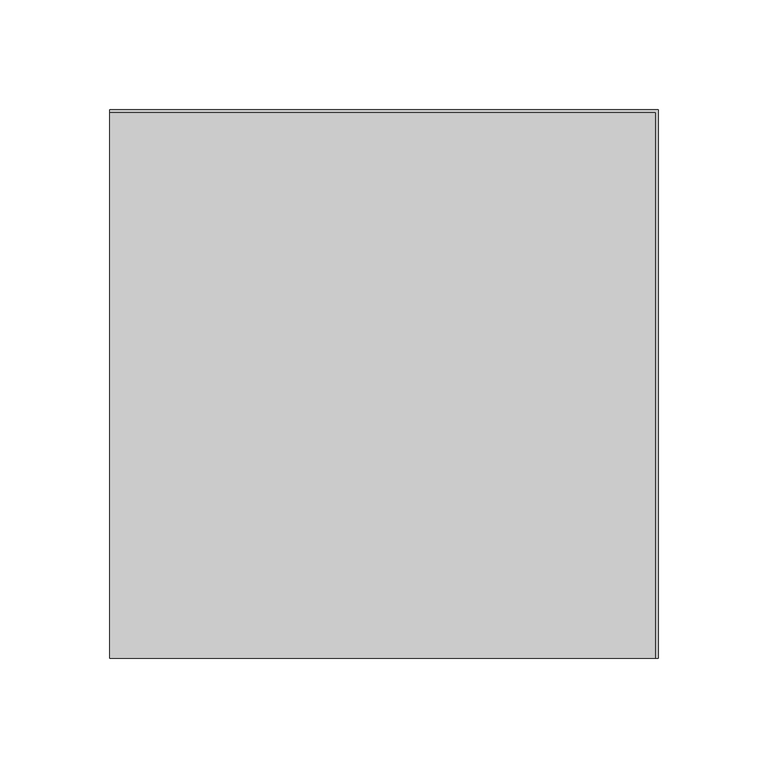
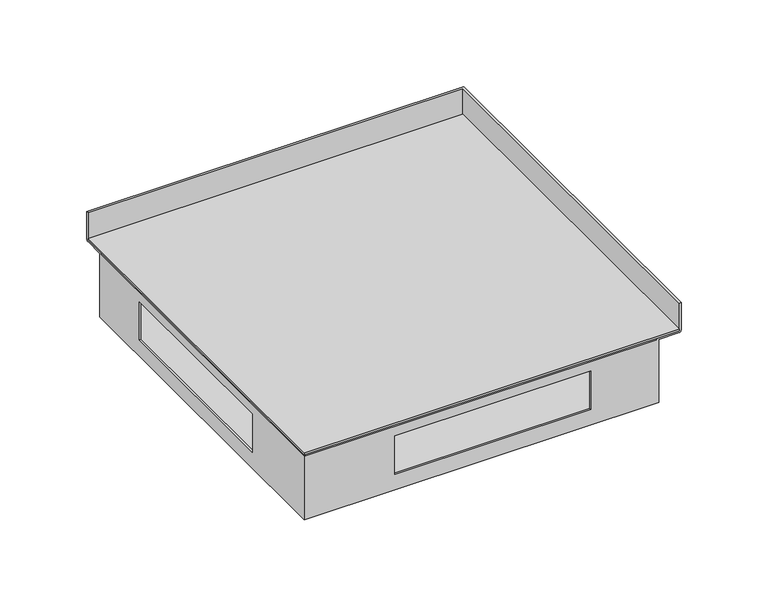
"""IFC4 building model written with IfcOpenShell, lengths in millimetres: proxy geometry, TECHNO_Угловой элемент_KVU : 250_065_90°."""

from ifc_helpers import new_model, si_unit, frame, origin, place, context, project, spatial, polyline, circle_curve, ellipse_curve, outline, extrude, source, transform, mapped, element, save
from ifc_brep_helpers import plane_surface, cylinder_surface, advanced_brep


def mechanical_equipment_7f4ab304(model_context):
    return source(origin(), model_context, "Body", "SolidModel", [
        extrude(outline(polyline([(0.0, 123.8), (248.8, 123.8), (248.8, -125.0), (0.0, -125.0), (0.0, 123.8)])), frame((0.0, 0.0, -19.3), z_axis=(0.0, 0.0, 1.0), x_axis=(1.0, 0.0, 0.0)), (0.0, 0.0, 1.0), 1.2),
        advanced_brep(
        [(1.2, 109.0, -63.8), (1.2, -123.8, -63.8), (234.0, -123.8, -63.8), (234.0, 109.0, -63.8), (0.0, 110.2, -65.0), (235.2, 110.2, -65.0), (235.2, -125.0, -65.0), (0.0, -125.0, -65.0), (0.0, 110.2, -20.5), (0.0, -125.0, -20.5), (0.0, 109.0, -20.5), (0.0, 110.2, -19.3), (0.0, 123.8, -19.3), (0.0, 123.8, 0.0), (0.0, 125.0, 0.0), (0.0, 125.0, -19.3), (0.0, 123.8, -20.5), (0.0, -65.0, -27.0), (0.0, -65.0, -54.0), (0.0, 65.0, -54.0), (0.0, 65.0, -27.0), (235.2, -125.0, -20.5), (248.8, -125.0, -20.5), (250.0, -125.0, -19.3), (250.0, -125.0, 0.0), (248.8, -125.0, 0.0), (248.8, -125.0, -19.3), (235.2, -125.0, -19.3), (234.0, -125.0, -20.5), (60.0, -125.0, -54.0), (60.0, -125.0, -27.0), (190.0, -125.0, -27.0), (190.0, -125.0, -54.0), (235.2, 110.2, -20.5), (1.2, 110.2, -19.3), (1.2, -123.8, -19.3), (235.2, -123.8, -19.3), (248.8, 123.8, -19.3), (235.2, -109.0, -19.3), (16.0, -109.0, -19.3), (16.0, 110.2, -19.3), (235.2, 110.2, -19.3), (16.0, -109.0, -20.5), (16.0, 109.0, -20.5), (234.0, -109.0, -20.5), (234.0, -123.8, -20.5), (1.2, -123.8, -20.5), (1.2, 109.0, -20.5), (1.2, -65.0, -54.0), (1.2, -65.0, -27.0), (1.2, 65.0, -27.0), (1.2, 65.0, -54.0), (60.0, -123.8, -27.0), (60.0, -123.8, -54.0), (190.0, -123.8, -54.0), (190.0, -123.8, -27.0), (250.0, 125.0, -19.3), (250.0, 125.0, 0.0), (248.8, 123.8, 0.0), (248.8, 123.8, -20.5), (234.0, 109.0, -20.5)],
        [
            (0, 1),
            (1, 2),
            (2, 3),
            (3, 0),
            (4, 5),
            (5, 6),
            (6, 7),
            (7, 4),
            (8, 4),
            (7, 9),
            (9, 10),
            (10, 11, circle_curve(frame((0.0, 110.2, -20.5), z_axis=(-1.0, 0.0, 0.0), x_axis=(0.0, -1.0, 0.0)), 1.2)),
            (11, 12),
            (12, 13),
            (13, 14),
            (14, 15),
            (15, 16, circle_curve(frame((0.0, 123.8, -19.3), z_axis=(-1.0, 0.0, 0.0), x_axis=(0.0, -1.0, 0.0)), 1.2)),
            (16, 8),
            (17, 18),
            (18, 19),
            (19, 20),
            (20, 17),
            (6, 21),
            (21, 22),
            (22, 23, circle_curve(frame((248.8, -125.0, -19.3), z_axis=(0.0, -1.0, 0.0), x_axis=(-1.0, 0.0, 0.0)), 1.2)),
            (23, 24),
            (24, 25),
            (25, 26),
            (26, 27),
            (27, 28, circle_curve(frame((235.2, -125.0, -20.5), z_axis=(0.0, -1.0, 0.0), x_axis=(-1.0, 0.0, 0.0)), 1.2)),
            (28, 9),
            (29, 30),
            (30, 31),
            (31, 32),
            (32, 29),
            (8, 33),
            (33, 5),
            (33, 21),
            (34, 35),
            (35, 36),
            (36, 27),
            (26, 37),
            (37, 12),
            (11, 34),
            (38, 39),
            (39, 40),
            (40, 41),
            (41, 38),
            (39, 42),
            (42, 43),
            (43, 40, circle_curve(frame((16.0, 110.2, -20.5), z_axis=(-1.0, 0.0, 0.0), x_axis=(0.0, -1.0, 0.0)), 1.2)),
            (38, 44, circle_curve(frame((235.2, -109.0, -20.5), z_axis=(0.0, -1.0, 0.0), x_axis=(-1.0, 0.0, 0.0)), 1.2)),
            (44, 42),
            (44, 45),
            (45, 46),
            (46, 47),
            (47, 43),
            (46, 1),
            (0, 47),
            (48, 49),
            (49, 50),
            (50, 51),
            (51, 48),
            (45, 2),
            (52, 53),
            (53, 54),
            (54, 55),
            (55, 52),
            (34, 10, ellipse_curve(frame((1.2, 110.2, -20.5), z_axis=(0.7071067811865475, -0.7071067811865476, 0.0), x_axis=(0.7071067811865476, 0.7071067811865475, 0.0)), 1.6970563, 1.2)),
            (9, 35, ellipse_curve(frame((1.2, -123.8, -20.5), z_axis=(-0.7071067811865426, 0.7071067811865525, 0.0), x_axis=(0.7071067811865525, 0.7071067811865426, 0.0)), 1.6970563, 1.2)),
            (28, 36, ellipse_curve(frame((235.2, -123.8, -20.5), z_axis=(-0.707106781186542, 0.7071067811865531, 0.0), x_axis=(-0.7071067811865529, -0.707106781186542, 0.0)), 1.6970563, 1.2)),
            (23, 56),
            (56, 57),
            (57, 24),
            (57, 14),
            (13, 58),
            (58, 25),
            (58, 37),
            (16, 59),
            (59, 22),
            (59, 56, ellipse_curve(frame((248.8, 123.8, -19.3), z_axis=(0.7071067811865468, -0.7071067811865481, 0.0), x_axis=(-0.7071067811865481, -0.7071067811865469, 0.0)), 1.6970563, 1.2)),
            (56, 15),
            (41, 60, ellipse_curve(frame((235.2, 110.2, -20.5), z_axis=(0.7071067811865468, -0.7071067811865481, 0.0), x_axis=(-0.7071067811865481, -0.7071067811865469, 0.0)), 1.6970563, 1.2)),
            (60, 44),
            (60, 3),
            (43, 60),
            (48, 18),
            (17, 49),
            (51, 19),
            (50, 20),
            (52, 30),
            (29, 53),
            (55, 31),
            (54, 32),
        ],
        [
            plane_surface(frame((0.0, 109.0, -63.8), z_axis=(0.0, 0.0, 1.0), x_axis=(0.0, -1.0, 0.0))),
            plane_surface(frame((0.0, 109.0, -65.0), z_axis=(0.0, 0.0, -1.0), x_axis=(0.0, 1.0, 0.0))),
            plane_surface(frame((0.0, 109.0, -63.8), z_axis=(-1.0, 0.0, 0.0), x_axis=(0.0, 0.0, -1.0))),
            plane_surface(frame((0.0, -125.0, -63.8), z_axis=(0.0, -1.0, 0.0), x_axis=(0.0, 0.0, -1.0))),
            plane_surface(frame((0.0, 110.2, -65.0), z_axis=(0.0, 1.0, 0.0), x_axis=(0.0, 0.0, -1.0))),
            plane_surface(frame((235.2, -125.0, -65.0), z_axis=(1.0, 0.0, 0.0), x_axis=(0.0, 0.0, -1.0))),
            plane_surface(frame((1.2, 110.2, -19.3), z_axis=(0.0, 0.0, 1.0), x_axis=(0.0, -1.0, 0.0))),
            plane_surface(frame((16.0, 110.2, -19.3), z_axis=(1.0, 0.0, 0.0), x_axis=(0.0, -1.0, 0.0))),
            plane_surface(frame((16.0, -109.0, -19.3), z_axis=(0.0, 1.0, 0.0), x_axis=(1.0, 0.0, 0.0))),
            plane_surface(frame((16.0, 110.2, -20.5), z_axis=(0.0, 0.0, -1.0), x_axis=(0.0, -1.0, 0.0))),
            plane_surface(frame((1.2, 110.2, -20.5), z_axis=(1.0, 0.0, 0.0), x_axis=(0.0, -1.0, 0.0))),
            plane_surface(frame((1.2, -123.8, -20.5), z_axis=(0.0, 1.0, 0.0), x_axis=(1.0, 0.0, 0.0))),
            cylinder_surface(frame((1.2, 110.2, -20.5), z_axis=(0.0, 1.0, 0.0), x_axis=(-1.0, 0.0, 0.0)), 1.2),
            cylinder_surface(frame((0.0, -123.8, -20.5), z_axis=(-1.0, 0.0, 0.0), x_axis=(0.0, -1.0, 0.0)), 1.2),
            plane_surface(frame((250.0, -125.0, -19.3), z_axis=(1.0, 0.0, 0.0), x_axis=(0.0, 1.0, 0.0))),
            plane_surface(frame((250.0, -125.0, 0.0), z_axis=(0.0, 0.0, 1.0), x_axis=(0.0, 1.0, 0.0))),
            plane_surface(frame((248.8, -125.0, 0.0), z_axis=(-1.0, 0.0, 0.0), x_axis=(0.0, 1.0, 0.0))),
            plane_surface(frame((235.2, -125.0, -20.5), z_axis=(0.0, 0.0, -1.0), x_axis=(0.0, 1.0, 0.0))),
            cylinder_surface(frame((248.8, -125.0, -19.3), z_axis=(0.0, -1.0, 0.0), x_axis=(-1.0, 0.0, 0.0)), 1.2),
            plane_surface(frame((250.0, 125.0, -19.3), z_axis=(0.0, 1.0, 0.0), x_axis=(-1.0, 0.0, 0.0))),
            plane_surface(frame((248.8, 123.8, 0.0), z_axis=(0.0, -1.0, 0.0), x_axis=(-1.0, 0.0, 0.0))),
            cylinder_surface(frame((125.0, 123.8, -19.3), z_axis=(1.0, 0.0, 0.0), x_axis=(0.0, -1.0, 0.0)), 1.2),
            cylinder_surface(frame((235.2, -125.0, -20.5), z_axis=(0.0, -1.0, 0.0), x_axis=(-1.0, 0.0, 0.0)), 1.2),
            plane_surface(frame((234.0, -125.0, -20.5), z_axis=(-1.0, 0.0, 0.0), x_axis=(0.0, 1.0, 0.0))),
            cylinder_surface(frame((125.0, 110.2, -20.5), z_axis=(1.0, 0.0, 0.0), x_axis=(0.0, -1.0, 0.0)), 1.2),
            plane_surface(frame((234.0, 109.0, -20.5), z_axis=(0.0, -1.0, 0.0), x_axis=(-1.0, 0.0, 0.0))),
            plane_surface(frame((1.2, -65.0, -27.0), z_axis=(0.0, 1.0, 0.0), x_axis=(-1.0, 0.0, 0.0))),
            plane_surface(frame((1.2, -65.0, -54.0), z_axis=(0.0, 0.0, 1.0), x_axis=(-1.0, 0.0, 0.0))),
            plane_surface(frame((1.2, 65.0, -54.0), z_axis=(0.0, -1.0, 0.0), x_axis=(-1.0, 0.0, 0.0))),
            plane_surface(frame((1.2, 65.0, -27.0), z_axis=(0.0, 0.0, -1.0), x_axis=(-1.0, 0.0, 0.0))),
            plane_surface(frame((60.0, -123.8, -54.0), z_axis=(1.0, 0.0, 0.0), x_axis=(0.0, -1.0, 0.0))),
            plane_surface(frame((60.0, -123.8, -27.0), z_axis=(0.0, 0.0, -1.0), x_axis=(0.0, -1.0, 0.0))),
            plane_surface(frame((190.0, -123.8, -27.0), z_axis=(-1.0, 0.0, 0.0), x_axis=(0.0, -1.0, 0.0))),
            plane_surface(frame((190.0, -123.8, -54.0), z_axis=(0.0, 0.0, 1.0), x_axis=(0.0, -1.0, 0.0))),
        ],
        [
            (0, [[1, 2, 3, 4]]),
            (1, [[5, 6, 7, 8]]),
            (2, [[9, -8, 10, 11, 12, 13, 14, 15, 16, 17, 18], [19, 20, 21, 22]]),
            (3, [[23, 24, 25, 26, 27, 28, 29, 30, 31, -10, -7], [32, 33, 34, 35]]),
            (4, [[-9, 36, 37, -5]]),
            (5, [[-23, -6, -37, 38]]),
            (6, [[39, 40, 41, -29, 42, 43, -13, 44], [45, 46, 47, 48]]),
            (7, [[-46, 49, 50, 51]]),
            (8, [[-45, 52, 53, -49]]),
            (9, [[-50, -53, 54, 55, 56, 57]]),
            (10, [[58, -1, 59, -56], [60, 61, 62, 63]]),
            (11, [[-58, -55, 64, -2], [65, 66, 67, 68]]),
            (12, [[-39, 69, -11, 70]]),
            (13, [[-40, -70, -31, 71]]),
            (14, [[-26, 72, 73, 74]]),
            (15, [[-27, -74, 75, -15, 76, 77]]),
            (16, [[-28, -77, 78, -42]]),
            (17, [[-24, -38, -36, -18, 79, 80]]),
            (18, [[-25, -80, 81, -72]]),
            (19, [[-73, 82, -16, -75]]),
            (20, [[-76, -14, -43, -78]]),
            (21, [[-79, -17, -82, -81]]),
            (22, [[-30, -41, -71]]),
            (22, [[83, 84, -52, -48]]),
            (23, [[85, -3, -64, -54, -84]]),
            (24, [[-12, -69, -44]]),
            (24, [[-83, -47, -51, 86]]),
            (25, [[-85, -86, -57, -59, -4]]),
            (26, [[87, -19, 88, -60]]),
            (27, [[-87, -63, 89, -20]]),
            (28, [[-89, -62, 90, -21]]),
            (29, [[-88, -22, -90, -61]]),
            (30, [[91, -32, 92, -65]]),
            (31, [[-91, -68, 93, -33]]),
            (32, [[-93, -67, 94, -34]]),
            (33, [[-92, -35, -94, -66]]),
        ],
    ),
    ])


if __name__ == "__main__":
    model = new_model("IFC4")
    model_context = context("Model", 3, world=origin())
    ifc_project = project(units=[si_unit("LENGTHUNIT", "METRE", prefix="MILLI")], contexts=[model_context])
    site = spatial("IfcSite", under=ifc_project)
    building = spatial("IfcBuilding", under=site)
    placement = place(None, origin())
    mechanical_equipment_shape = mechanical_equipment_7f4ab304(model_context)
    element("IfcBuildingElementProxy", 1, Name="TECHNO_Угловой элемент_KVU : 250_065_90°", ObjectType="TECHNO_Угловой элемент_KVU : 250_065_90°", at=placement, inside=building, context=model_context, shape_type="MappedRepresentation", body=[
        mapped(mechanical_equipment_shape, transform((0.0, 0.0, 0.0), x_axis=(1.0, 0.0, 0.0), y_axis=(0.0, 1.0, 0.0), z_axis=(0.0, 0.0, 1.0))),
    ])
    save(model, "model.ifc")
